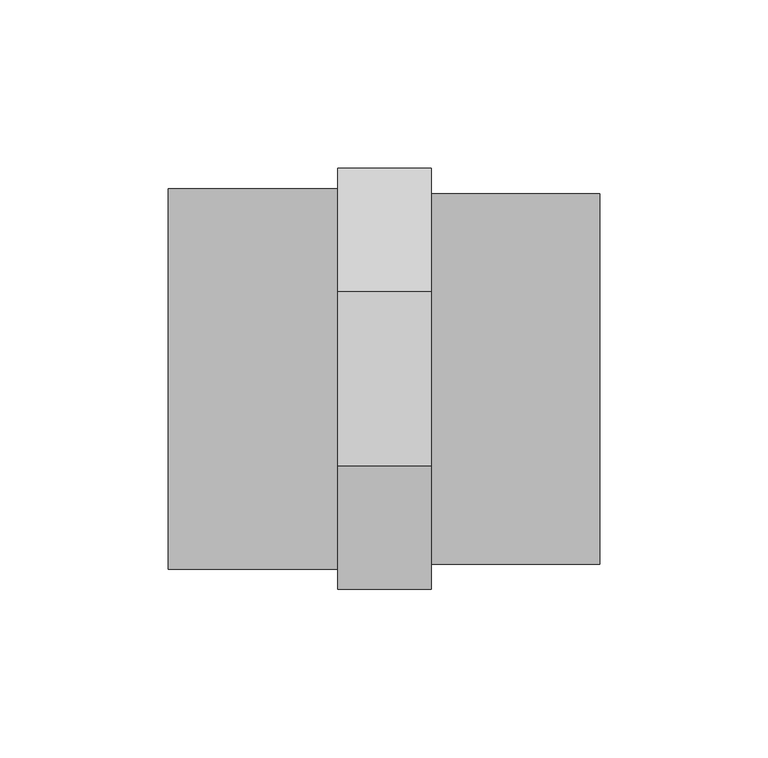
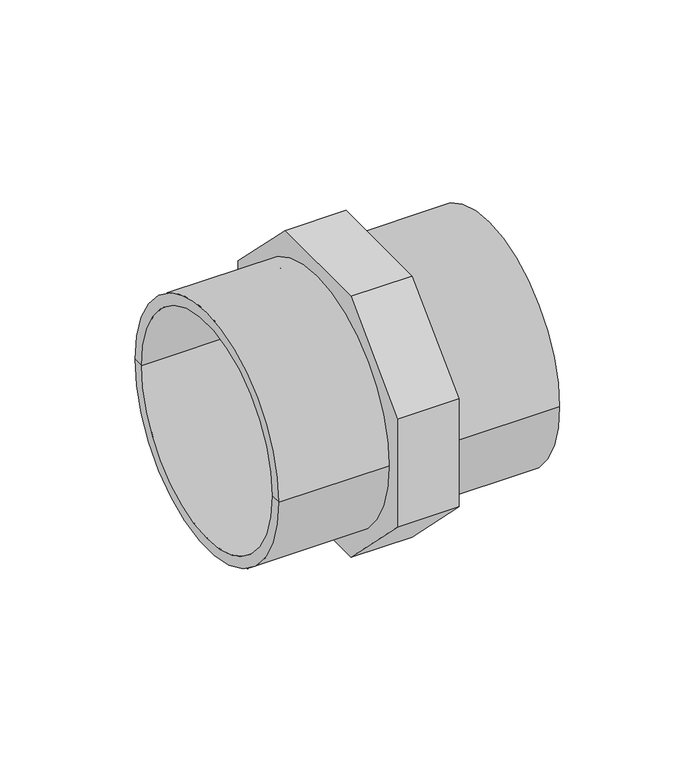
"""IFC4 building model written with IfcOpenShell, lengths in millimetres: pipe fitting geometry, Durapipe_PipeFitting_PVC_MaleThreadedAdaptors : 110 x 90 x G4."""

from ifc_helpers import new_model, si_unit, point, frame, origin, origin_2d, place, context, project, spatial, polyline, circle_curve, trimmed, segment, composite_curve, outline, extrude, source, transform, mapped, element, save
from ifc_brep_helpers import plane_surface, cylinder_surface, revolved_surface, advanced_brep


def pipe_fitting_6e557de6(model_context):
    return source(origin(), model_context, "Body", "SolidModel", [
        extrude(outline(polyline([(62.5, 25.8883476), (62.5, -25.8883476), (25.8883476, -62.5), (-25.8883476, -62.5), (-62.5, -25.8883476), (-62.5, 25.8883476), (-25.8883476, 62.5), (25.8883476, 62.5), (62.5, 25.8883476)]), holes=[composite_curve([segment(trimmed(circle_curve(origin_2d(), 51.5), [point((51.5, 0.0))], [point((-51.5, 0.0))], True, "CARTESIAN"), True, "CONTINUOUS"), segment(trimmed(circle_curve(origin_2d(), 51.5), [point((-51.5, 0.0))], [point((51.5, 0.0))], True, "CARTESIAN"), True, "CONTINUOUS")], self_intersect=False)]), frame((-27.8, 0.0, 0.0), z_axis=(1.0, 0.0, 0.0), x_axis=(0.0, 1.0, 0.0)), (0.0, 0.0, 1.0), 27.8),
        advanced_brep(
        [(0.0, -55.0, 0.0), (0.0, 55.0, 0.0), (50.0, 55.0, 0.0), (50.0, -55.0, 0.0), (50.0, 45.0, 0.0), (50.0, -45.0, 0.0), (0.0, -45.0, 0.0), (0.0, 45.0, 0.0)],
        [
            (0, 1, circle_curve(frame((0.0, 0.0, 0.0), z_axis=(1.0, 0.0, 0.0), x_axis=(0.0, 1.0, 0.0)), 55.0)),
            (1, 2),
            (2, 3, circle_curve(frame((50.0, 0.0, 0.0), z_axis=(-1.0, 0.0, 0.0), x_axis=(0.0, 1.0, 0.0)), 55.0)),
            (3, 0),
            (1, 0, circle_curve(frame((0.0, 0.0, 0.0), z_axis=(1.0, 0.0, 0.0), x_axis=(0.0, 1.0, 0.0)), 55.0)),
            (3, 2, circle_curve(frame((50.0, 0.0, 0.0), z_axis=(-1.0, 0.0, 0.0), x_axis=(0.0, 1.0, 0.0)), 55.0)),
            (2, 4),
            (4, 5, circle_curve(frame((50.0, 0.0, 0.0), z_axis=(-1.0, 0.0, 0.0), x_axis=(0.0, 1.0, 0.0)), 45.0)),
            (5, 3),
            (5, 4, circle_curve(frame((50.0, 0.0, 0.0), z_axis=(-1.0, 0.0, 0.0), x_axis=(0.0, 1.0, 0.0)), 45.0)),
            (0, 6),
            (6, 7, circle_curve(frame((0.0, 0.0, 0.0), z_axis=(1.0, 0.0, 0.0), x_axis=(0.0, 1.0, 0.0)), 45.0)),
            (7, 1),
            (7, 6, circle_curve(frame((0.0, 0.0, 0.0), z_axis=(1.0, 0.0, 0.0), x_axis=(0.0, 1.0, 0.0)), 45.0)),
            (4, 7),
            (6, 5),
        ],
        [
            cylinder_surface(frame((451.4572068, 0.0, 0.0), z_axis=(-1.0, 0.0, 0.0), x_axis=(0.0, 1.0, 0.0)), 55.0),
            plane_surface(frame((50.0, 0.0, 0.0), z_axis=(1.0, 0.0, 0.0), x_axis=(0.0, 1.0, 0.0))),
            plane_surface(frame((0.0, 0.0, 0.0), z_axis=(-1.0, 0.0, 0.0), x_axis=(0.0, 1.0, 0.0))),
            revolved_surface(polyline([(0.0, 45.0, 0.0), (50.0, 45.0, 0.0)]), (63.5575137, 0.0, 0.0), (-1.0, 0.0, 0.0)),
        ],
        [
            (0, [[1, 2, 3, 4]]),
            (0, [[-2, 5, -4, 6]]),
            (1, [[-3, 7, 8, 9]]),
            (1, [[-6, -9, 10, -7]]),
            (2, [[-1, 11, 12, 13]]),
            (2, [[-5, -13, 14, -11]]),
            (3, [[15, -12, 16, -8]]),
            (3, [[-15, -10, -16, -14]]),
        ],
    ),
        advanced_brep(
        [(-27.8, -51.5, 0.0), (-27.8, 51.5, 0.0), (-78.0, 51.5, 0.0), (-78.0, -51.5, 0.0), (-27.8, -56.5, 0.0), (-27.8, 56.5, 0.0), (-78.0, -56.5, 0.0), (-78.0, 56.5, 0.0)],
        [
            (0, 1, circle_curve(frame((-27.8, 0.0, 0.0), z_axis=(1.0, 0.0, 0.0), x_axis=(0.0, 1.0, 0.0)), 51.5)),
            (1, 2),
            (2, 3, circle_curve(frame((-78.0, 0.0, 0.0), z_axis=(-1.0, 0.0, 0.0), x_axis=(0.0, 1.0, 0.0)), 51.5)),
            (3, 0),
            (1, 0, circle_curve(frame((-27.8, 0.0, 0.0), z_axis=(1.0, 0.0, 0.0), x_axis=(0.0, 1.0, 0.0)), 51.5)),
            (3, 2, circle_curve(frame((-78.0, 0.0, 0.0), z_axis=(-1.0, 0.0, 0.0), x_axis=(0.0, 1.0, 0.0)), 51.5)),
            (4, 5, circle_curve(frame((-27.8, 0.0, 0.0), z_axis=(1.0, 0.0, 0.0), x_axis=(0.0, 1.0, 0.0)), 56.5)),
            (5, 1),
            (0, 4),
            (5, 4, circle_curve(frame((-27.8, 0.0, 0.0), z_axis=(1.0, 0.0, 0.0), x_axis=(0.0, 1.0, 0.0)), 56.5)),
            (6, 7, circle_curve(frame((-78.0, 0.0, 0.0), z_axis=(1.0, 0.0, 0.0), x_axis=(0.0, 1.0, 0.0)), 56.5)),
            (7, 5),
            (4, 6),
            (7, 6, circle_curve(frame((-78.0, 0.0, 0.0), z_axis=(1.0, 0.0, 0.0), x_axis=(0.0, 1.0, 0.0)), 56.5)),
            (2, 7),
            (6, 3),
        ],
        [
            revolved_surface(polyline([(-78.0, 51.5, 0.0), (-27.799999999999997, 51.5, 0.0)]), (-93.0, 0.0, 0.0), (-1.0, 0.0, 0.0)),
            plane_surface(frame((-27.8, 0.0, 0.0), z_axis=(1.0, 0.0, 0.0), x_axis=(0.0, 1.0, 0.0))),
            cylinder_surface(frame((-93.0, 0.0, 0.0), z_axis=(-1.0, 0.0, 0.0), x_axis=(0.0, 1.0, 0.0)), 56.5),
            plane_surface(frame((-78.0, 0.0, 0.0), z_axis=(-1.0, 0.0, 0.0), x_axis=(0.0, 1.0, 0.0))),
        ],
        [
            (0, [[1, 2, 3, 4]]),
            (0, [[5, -4, 6, -2]]),
            (1, [[7, 8, -1, 9]]),
            (1, [[10, -9, -5, -8]]),
            (2, [[11, 12, -7, 13]]),
            (2, [[14, -13, -10, -12]]),
            (3, [[-3, 15, -11, 16]]),
            (3, [[-6, -16, -14, -15]]),
        ],
    ),
    ])


if __name__ == "__main__":
    model = new_model("IFC4")
    model_context = context("Model", 3, world=origin())
    ifc_project = project(units=[si_unit("LENGTHUNIT", "METRE", prefix="MILLI")], contexts=[model_context])
    site = spatial("IfcSite", under=ifc_project)
    building = spatial("IfcBuilding", under=site)
    placement = place(None, origin())
    pipe_fitting_shape = pipe_fitting_6e557de6(model_context)
    element("IfcPipeFitting", 1, ObjectType="Durapipe_PipeFitting_PVC_MaleThreadedAdaptors : 110 x 90 x G4", at=placement, inside=building, context=model_context, shape_type="MappedRepresentation", body=[
        mapped(pipe_fitting_shape, transform((0.0, 0.0, 0.0), x_axis=(1.0, 0.0, 0.0), y_axis=(0.0, 1.0, 0.0), z_axis=(0.0, 0.0, 1.0))),
    ])
    save(model, "model.ifc")
